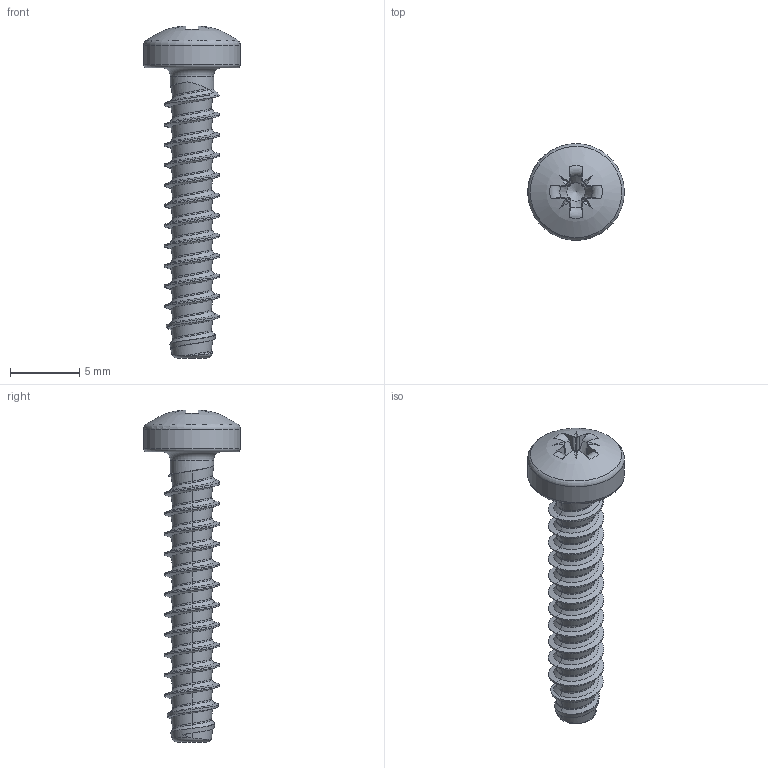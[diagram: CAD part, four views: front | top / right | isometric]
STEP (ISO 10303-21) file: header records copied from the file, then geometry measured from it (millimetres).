
FILE_DESCRIPTION(/* description */ (''),/* implementation_level */ '2;1');
FILE_NAME(/* name */ 'KN6032-STSplus-40x21-Z2.step',/* time_stamp */ '2017-10-10T15:58:54+02:00',/* author */ (''),/* organization */ (''),/* preprocessor_version */ 'ST-DEVELOPER v16',/* originating_system */ 'SIEMENS PLM Software NX 10.0',/* authorisation */ '');
FILE_SCHEMA (('AUTOMOTIVE_DESIGN { 1 0 10303 214 3 1 1 1 }'));
Length unit declared in the file: millimetre
Products named in the file (1): KN6032-STSplus-40x21-Z2
Bounding box: 7 x 7 x 24.03 mm (x, y, z)
Volume: 251.7 mm3; surface area: 427.3 mm2
Topology: 1 solids, 1 shells, 140 faces, 335 edges, 197 vertices
Faces by surface type: bspline 71, plane 42, cylinder 11, torus 8, cone 7, sphere 1
Full cylindrical faces by diameter (mm): 3.13 x1, 7 x1
Entity records: 7785 total; most frequent: CARTESIAN_POINT 5074, ORIENTED_EDGE 642, DIRECTION 377, EDGE_CURVE 321, VERTEX_POINT 192, EDGE_LOOP 148, ADVANCED_FACE 140, B_SPLINE_CURVE_WITH_KNOTS 139
